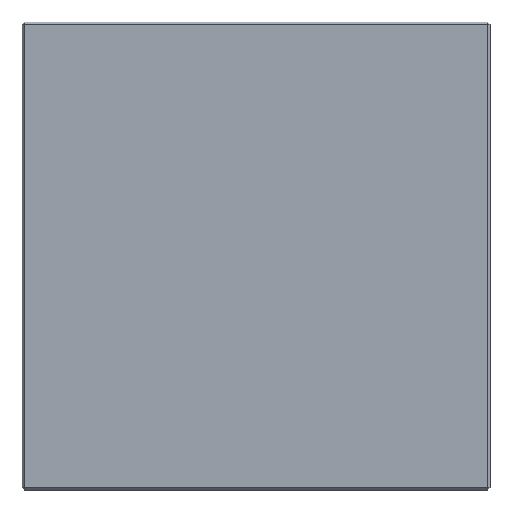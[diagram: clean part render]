
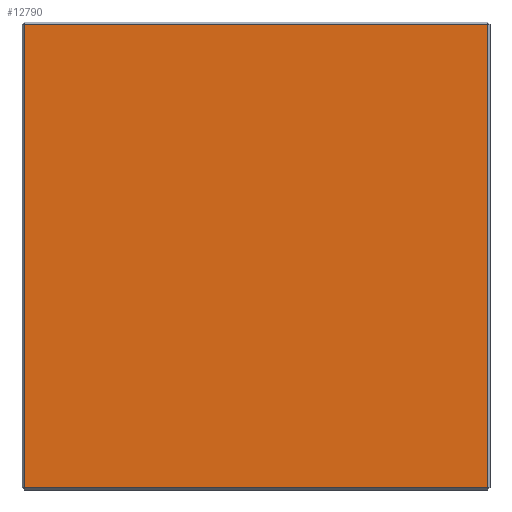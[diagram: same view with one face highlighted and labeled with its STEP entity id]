
A CAD part, front view. The second image highlights one B-rep face of the part: STEP entity #12790.
In plain terms, the highlighted planar face has unit normal (0, -1, 0).
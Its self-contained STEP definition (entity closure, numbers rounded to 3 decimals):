
#102 = PLANE ( 'NONE',  #10049 ) ;
#535 = CARTESIAN_POINT ( 'NONE',  ( 0., 0., 49.5 ) ) ;
#677 = VERTEX_POINT ( 'NONE', #7308 ) ;
#1047 = CARTESIAN_POINT ( 'NONE',  ( 49.5, 0., 0. ) ) ;
#1365 = CARTESIAN_POINT ( 'NONE',  ( 0., 0., -49.5 ) ) ;
#2089 = LINE ( 'NONE', #1365, #11099 ) ;
#2669 = DIRECTION ( 'NONE',  ( -1., 0., 0. ) ) ;
#3453 = FACE_OUTER_BOUND ( 'NONE', #7983, .T. ) ;
#4044 = LINE ( 'NONE', #1047, #6905 ) ;
#4055 = EDGE_CURVE ( 'NONE', #677, #8554, #2089, .T. ) ;
#4801 = ORIENTED_EDGE ( 'NONE', *, *, #7108, .T. ) ;
#5121 = EDGE_CURVE ( 'NONE', #8554, #5993, #4044, .T. ) ;
#5292 = VECTOR ( 'NONE', #7636, 1000. ) ;
#5728 = DIRECTION ( 'NONE',  ( 0., 1., 0. ) ) ;
#5737 = ORIENTED_EDGE ( 'NONE', *, *, #8241, .T. ) ;
#5993 = VERTEX_POINT ( 'NONE', #6205 ) ;
#6024 = CARTESIAN_POINT ( 'NONE',  ( 49.5, 0., -49.5 ) ) ;
#6205 = CARTESIAN_POINT ( 'NONE',  ( 49.5, 0., 49.5 ) ) ;
#6905 = VECTOR ( 'NONE', #8351, 1000. ) ;
#7108 = EDGE_CURVE ( 'NONE', #10675, #677, #13090, .T. ) ;
#7308 = CARTESIAN_POINT ( 'NONE',  ( -49.5, 0., -49.5 ) ) ;
#7468 = CARTESIAN_POINT ( 'NONE',  ( -49.5, 0., 49.5 ) ) ;
#7636 = DIRECTION ( 'NONE',  ( 0., 0., -1. ) ) ;
#7890 = ORIENTED_EDGE ( 'NONE', *, *, #4055, .T. ) ;
#7983 = EDGE_LOOP ( 'NONE', ( #8285, #5737, #4801, #7890 ) ) ;
#8241 = EDGE_CURVE ( 'NONE', #5993, #10675, #11386, .T. ) ;
#8285 = ORIENTED_EDGE ( 'NONE', *, *, #5121, .T. ) ;
#8351 = DIRECTION ( 'NONE',  ( 0., 0., 1. ) ) ;
#8554 = VERTEX_POINT ( 'NONE', #6024 ) ;
#8773 = CARTESIAN_POINT ( 'NONE',  ( 0., 0., 0. ) ) ;
#9884 = VECTOR ( 'NONE', #2669, 1000. ) ;
#10049 = AXIS2_PLACEMENT_3D ( 'NONE', #8773, #5728, #11108 ) ;
#10675 = VERTEX_POINT ( 'NONE', #7468 ) ;
#10822 = CARTESIAN_POINT ( 'NONE',  ( -49.5, 0., 0. ) ) ;
#11099 = VECTOR ( 'NONE', #13946, 1000. ) ;
#11108 = DIRECTION ( 'NONE',  ( 0., 0., 1. ) ) ;
#11386 = LINE ( 'NONE', #535, #9884 ) ;
#12790 = ADVANCED_FACE ( 'NONE', ( #3453 ), #102, .F. ) ;
#13090 = LINE ( 'NONE', #10822, #5292 ) ;
#13946 = DIRECTION ( 'NONE',  ( 1., 0., 0. ) ) ;
